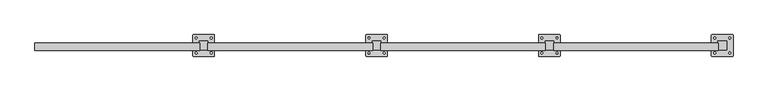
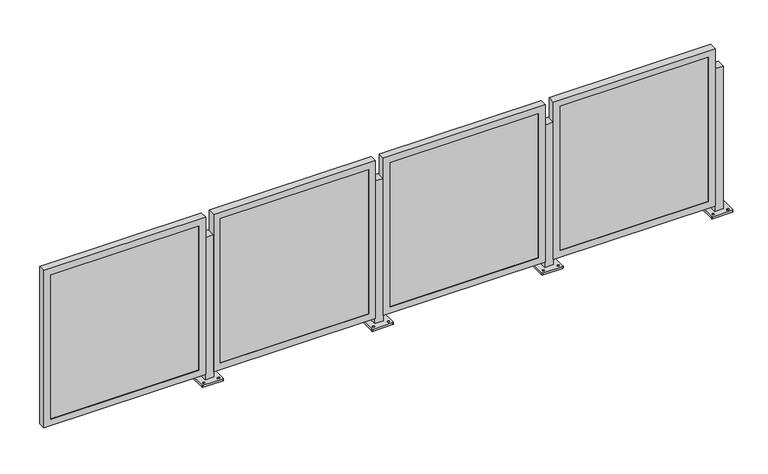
"""IFC4 building model written with IfcOpenShell, lengths in millimetres: railing geometry, Railing - Amico Architectural - Perforated Railing - Apex03."""

from ifc_helpers import new_model, si_unit, frame, origin, place, context, project, spatial, polyline, circle_curve, outline, extrude, faceted_brep, source, transform, mapped, element, save
from ifc_brep_helpers import plane_surface, cylinder_surface, revolved_surface, advanced_brep


def railing_685e31f2(model_context):
    return source(origin(), model_context, "Body", "SolidModel", [
        advanced_brep(
        [(-22933.5891671, -9669.5402105, 914.4), (-22933.5891671, -9720.3402105, 914.4), (-22882.7891671, -9720.3402105, 914.4), (-22882.7891671, -9669.5402105, 914.4), (-22971.6891672, -9755.2651694, 0.0), (-22971.6891672, -9634.6152515, 0.0), (-22968.5141391, -9631.4402233, 0.0), (-22847.8641951, -9631.4402233, 0.0), (-22844.6891669, -9634.6152515, 0.0), (-22844.6891669, -9755.2651694, 0.0), (-22847.8641951, -9758.4401976, 0.0), (-22968.5141391, -9758.4401976, 0.0), (-22952.6391546, -9744.9464651, 0.0), (-22952.6391546, -9733.8339526, 0.0), (-22952.6391655, -9656.0464607, 0.0), (-22952.6391655, -9644.9339791, 0.0), (-22863.7391536, -9744.9464636, 0.0), (-22863.7391536, -9733.8339529, 0.0), (-22863.7391646, -9656.0464592, 0.0), (-22863.7391646, -9644.9339794, 0.0), (-22933.5891671, -9669.5402105, 12.7), (-22933.5891671, -9720.3402105, 12.7), (-22882.7891671, -9720.3402105, 12.7), (-22882.7891671, -9669.5402105, 12.7), (-22971.6891672, -9755.2651694, 12.7), (-22968.5141391, -9758.4401976, 12.7), (-22847.8641951, -9758.4401976, 12.7), (-22844.6891669, -9755.2651694, 12.7), (-22844.6891669, -9634.6152515, 12.7), (-22847.8641951, -9631.4402233, 12.7), (-22968.5141391, -9631.4402233, 12.7), (-22971.6891672, -9634.6152515, 12.7), (-22952.6391546, -9744.9464651, 12.7), (-22952.6391546, -9733.8339526, 12.7), (-22952.6391655, -9656.0464607, 12.7), (-22952.6391655, -9644.9339791, 12.7), (-22863.7391536, -9744.9464636, 12.7), (-22863.7391536, -9733.8339529, 12.7), (-22863.7391646, -9656.0464592, 12.7), (-22863.7391646, -9644.9339794, 12.7)],
        [
            (0, 1),
            (1, 2),
            (2, 3),
            (3, 0),
            (4, 5),
            (5, 6, circle_curve(frame((-22968.5141391, -9634.6152515, 0.0), z_axis=(0.0, 0.0, -1.0), x_axis=(0.0, 1.0, 0.0)), 3.1750282)),
            (6, 7),
            (7, 8, circle_curve(frame((-22847.8641951, -9634.6152515, 0.0), z_axis=(0.0, 0.0, -1.0), x_axis=(0.0, 1.0, 0.0)), 3.1750282)),
            (8, 9),
            (9, 10, circle_curve(frame((-22847.8641951, -9755.2651694, 0.0), z_axis=(0.0, 0.0, -1.0), x_axis=(0.0, 1.0, 0.0)), 3.1750282)),
            (10, 11),
            (11, 4, circle_curve(frame((-22968.5141391, -9755.2651694, 0.0), z_axis=(0.0, 0.0, -1.0), x_axis=(0.0, 1.0, 0.0)), 3.1750282)),
            (12, 13, circle_curve(frame((-22952.6391546, -9739.3902089, 0.0), z_axis=(0.0, 0.0, 1.0), x_axis=(0.0, 1.0, 0.0)), 5.5562562)),
            (13, 12, circle_curve(frame((-22952.6391546, -9739.3902089, 0.0), z_axis=(0.0, 0.0, 1.0), x_axis=(0.0, 1.0, 0.0)), 5.5562562)),
            (14, 15, circle_curve(frame((-22952.6391655, -9650.4902199, 0.0), z_axis=(0.0, 0.0, 1.0), x_axis=(0.0, 1.0, 0.0)), 5.5562408)),
            (15, 14, circle_curve(frame((-22952.6391655, -9650.4902199, 0.0), z_axis=(0.0, 0.0, 1.0), x_axis=(0.0, 1.0, 0.0)), 5.5562408)),
            (16, 17, circle_curve(frame((-22863.7391536, -9739.3902082, 0.0), z_axis=(0.0, 0.0, 1.0), x_axis=(0.0, 1.0, 0.0)), 5.5562553)),
            (17, 16, circle_curve(frame((-22863.7391536, -9739.3902082, 0.0), z_axis=(0.0, 0.0, 1.0), x_axis=(0.0, 1.0, 0.0)), 5.5562553)),
            (18, 19, circle_curve(frame((-22863.7391646, -9650.4902193, 0.0), z_axis=(0.0, 0.0, 1.0), x_axis=(0.0, 1.0, 0.0)), 5.5562399)),
            (19, 18, circle_curve(frame((-22863.7391646, -9650.4902193, 0.0), z_axis=(0.0, 0.0, 1.0), x_axis=(0.0, 1.0, 0.0)), 5.5562399)),
            (0, 20),
            (20, 21),
            (21, 1),
            (21, 22),
            (22, 2),
            (22, 23),
            (23, 3),
            (23, 20),
            (24, 25, circle_curve(frame((-22968.5141391, -9755.2651694, 12.7), z_axis=(0.0, 0.0, 1.0), x_axis=(0.0, 1.0, 0.0)), 3.1750282)),
            (25, 26),
            (26, 27, circle_curve(frame((-22847.8641951, -9755.2651694, 12.7), z_axis=(0.0, 0.0, 1.0), x_axis=(0.0, 1.0, 0.0)), 3.1750282)),
            (27, 28),
            (28, 29, circle_curve(frame((-22847.8641951, -9634.6152515, 12.7), z_axis=(0.0, 0.0, 1.0), x_axis=(0.0, 1.0, 0.0)), 3.1750282)),
            (29, 30),
            (30, 31, circle_curve(frame((-22968.5141391, -9634.6152515, 12.7), z_axis=(0.0, 0.0, 1.0), x_axis=(0.0, 1.0, 0.0)), 3.1750282)),
            (31, 24),
            (32, 33, circle_curve(frame((-22952.6391546, -9739.3902089, 12.7), z_axis=(0.0, 0.0, -1.0), x_axis=(0.0, 1.0, 0.0)), 5.5562562)),
            (33, 32, circle_curve(frame((-22952.6391546, -9739.3902089, 12.7), z_axis=(0.0, 0.0, -1.0), x_axis=(0.0, 1.0, 0.0)), 5.5562562)),
            (34, 35, circle_curve(frame((-22952.6391655, -9650.4902199, 12.7), z_axis=(0.0, 0.0, -1.0), x_axis=(0.0, 1.0, 0.0)), 5.5562408)),
            (35, 34, circle_curve(frame((-22952.6391655, -9650.4902199, 12.7), z_axis=(0.0, 0.0, -1.0), x_axis=(0.0, 1.0, 0.0)), 5.5562408)),
            (36, 37, circle_curve(frame((-22863.7391536, -9739.3902082, 12.7), z_axis=(0.0, 0.0, -1.0), x_axis=(0.0, 1.0, 0.0)), 5.5562553)),
            (37, 36, circle_curve(frame((-22863.7391536, -9739.3902082, 12.7), z_axis=(0.0, 0.0, -1.0), x_axis=(0.0, 1.0, 0.0)), 5.5562553)),
            (38, 39, circle_curve(frame((-22863.7391646, -9650.4902193, 12.7), z_axis=(0.0, 0.0, -1.0), x_axis=(0.0, 1.0, 0.0)), 5.5562399)),
            (39, 38, circle_curve(frame((-22863.7391646, -9650.4902193, 12.7), z_axis=(0.0, 0.0, -1.0), x_axis=(0.0, 1.0, 0.0)), 5.5562399)),
            (24, 4),
            (11, 25),
            (10, 26),
            (9, 27),
            (8, 28),
            (7, 29),
            (6, 30),
            (5, 31),
            (32, 12),
            (13, 33),
            (34, 14),
            (15, 35),
            (36, 16),
            (17, 37),
            (38, 18),
            (19, 39),
        ],
        [
            plane_surface(frame((-22933.5891671, -9720.3402105, 914.4), z_axis=(0.0, 0.0, 1.0), x_axis=(0.0, -1.0, 0.0))),
            plane_surface(frame((-22933.5891671, -9720.3402105, 0.0), z_axis=(0.0, 0.0, -1.0), x_axis=(0.0, 1.0, 0.0))),
            plane_surface(frame((-22933.5891671, -9669.5402105, 914.4), z_axis=(-1.0, 0.0, 0.0), x_axis=(0.0, 0.0, -1.0))),
            plane_surface(frame((-22933.5891671, -9720.3402105, 914.4), z_axis=(0.0, -1.0, 0.0), x_axis=(0.0, 0.0, -1.0))),
            plane_surface(frame((-22882.7891671, -9720.3402105, 914.4), z_axis=(1.0, 0.0, 0.0), x_axis=(0.0, 0.0, -1.0))),
            plane_surface(frame((-22882.7891671, -9669.5402105, 914.4), z_axis=(0.0, 1.0, 0.0), x_axis=(0.0, 0.0, -1.0))),
            plane_surface(frame((-22968.5141391, -9752.0901413, 12.7), z_axis=(0.0, 0.0, 1.0), x_axis=(-1.0, 0.0, 0.0))),
            cylinder_surface(frame((-22968.5141391, -9755.2651694, 0.0), z_axis=(0.0, 0.0, 1.0), x_axis=(0.0, 1.0, 0.0)), 3.1750282),
            plane_surface(frame((-22968.5141391, -9758.4401976, 12.7), z_axis=(1.1945386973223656e-12, -1.0, 0.0), x_axis=(0.0, 0.0, -1.0))),
            cylinder_surface(frame((-22847.8641951, -9755.2651694, 0.0), z_axis=(0.0, 0.0, 1.0), x_axis=(0.0, 1.0, 0.0)), 3.1750282),
            plane_surface(frame((-22844.6891669, -9755.2651694, 12.7), z_axis=(1.0, 0.0, 0.0), x_axis=(0.0, 0.0, -1.0))),
            cylinder_surface(frame((-22847.8641951, -9634.6152515, 0.0), z_axis=(0.0, 0.0, 1.0), x_axis=(0.0, 1.0, 0.0)), 3.1750282),
            plane_surface(frame((-22847.8641951, -9631.4402233, 12.7), z_axis=(-1.1946088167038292e-12, 1.0, 0.0), x_axis=(0.0, 0.0, -1.0))),
            cylinder_surface(frame((-22968.5141391, -9634.6152515, 0.0), z_axis=(0.0, 0.0, 1.0), x_axis=(0.0, 1.0, 0.0)), 3.1750282),
            plane_surface(frame((-22971.6891672, -9634.6152515, 12.7), z_axis=(-1.0, 0.0, 0.0), x_axis=(0.0, 0.0, -1.0))),
            revolved_surface(polyline([(-22952.6391546, -9733.8339527, 0.0), (-22952.6391546, -9733.8339527, 12.7)]), (-22952.6391546, -9739.3902089, 0.0), (0.0, 0.0, -1.0)),
            revolved_surface(polyline([(-22952.6391655, -9644.9339791, 0.0), (-22952.6391655, -9644.9339791, 12.7)]), (-22952.6391655, -9650.4902199, 0.0), (0.0, 0.0, -1.0)),
            revolved_surface(polyline([(-22863.7391536, -9733.8339529, 0.0), (-22863.7391536, -9733.8339529, 12.7)]), (-22863.7391536, -9739.3902082, 0.0), (0.0, 0.0, -1.0)),
            revolved_surface(polyline([(-22863.7391646, -9644.9339794, 0.0), (-22863.7391646, -9644.9339794, 12.7)]), (-22863.7391646, -9650.4902193, 0.0), (0.0, 0.0, -1.0)),
        ],
        [
            (0, [[1, 2, 3, 4]]),
            (1, [[5, 6, 7, 8, 9, 10, 11, 12], [13, 14], [15, 16], [17, 18], [19, 20]]),
            (2, [[-1, 21, 22, 23]]),
            (3, [[-2, -23, 24, 25]]),
            (4, [[-3, -25, 26, 27]]),
            (5, [[-4, -27, 28, -21]]),
            (6, [[29, 30, 31, 32, 33, 34, 35, 36], [-22, -28, -26, -24], [37, 38], [39, 40], [41, 42], [43, 44]]),
            (7, [[-29, 45, -12, 46]]),
            (8, [[-30, -46, -11, 47]]),
            (9, [[-31, -47, -10, 48]]),
            (10, [[-32, -48, -9, 49]]),
            (11, [[-33, -49, -8, 50]]),
            (12, [[-34, -50, -7, 51]]),
            (13, [[-35, -51, -6, 52]]),
            (14, [[-36, -52, -5, -45]]),
            (15, [[-37, 53, -14, 54]]),
            (15, [[-38, -54, -13, -53]]),
            (16, [[-39, 55, -16, 56]]),
            (16, [[-40, -56, -15, -55]]),
            (17, [[-41, 57, -18, 58]]),
            (17, [[-42, -58, -17, -57]]),
            (18, [[-43, 59, -20, 60]]),
            (18, [[-44, -60, -19, -59]]),
        ],
    ),
        faceted_brep([(-23899.9936205, -9723.0834105, 47.625), (-22931.6186205, -9723.0834105, 47.625), (-22931.6186205, -9723.0834105, 1044.575), (-23899.9936205, -9723.0834105, 1044.575), (-23858.7186205, -9723.0834105, 1003.3), (-22972.8936205, -9723.0834105, 1003.3), (-22972.8936205, -9723.0834105, 88.9), (-23858.7186205, -9723.0834105, 88.9), (-23858.7186205, -9720.3402105, 1003.3), (-23858.7186205, -9720.3402105, 88.9), (-23899.9936205, -9679.2101139, 1044.575), (-23899.9936205, -9679.2101139, 47.625), (-23896.8186205, -9679.2101139, 1041.4), (-23896.8186205, -9720.3402105, 1041.4), (-23896.8186205, -9720.3402105, 50.8), (-23896.8186205, -9679.2101139, 50.8), (-22972.8936205, -9720.3402105, 88.9), (-22931.6186205, -9679.2101139, 47.625), (-22934.7936205, -9720.3402105, 50.8), (-22934.7936205, -9679.2101139, 50.8), (-22972.8936205, -9720.3402105, 1003.3), (-22931.6186205, -9679.2101139, 1044.575), (-22934.7936205, -9720.3402105, 1041.4), (-22934.7936205, -9679.2101139, 1041.4)], [[[0, 1, 2, 3], [4, 5, 6, 7]], [[8, 4, 7, 9]], [[3, 10, 11, 0]], [[12, 13, 14, 15]], [[9, 7, 6, 16]], [[0, 11, 17, 1]], [[15, 14, 18, 19]], [[16, 6, 5, 20]], [[1, 17, 21, 2]], [[19, 18, 22, 23]], [[20, 5, 4, 8]], [[10, 21, 17, 11], [15, 19, 23, 12]], [[2, 21, 10, 3]], [[13, 22, 18, 14], [9, 16, 20, 8]], [[23, 22, 13, 12]]]),
        extrude(outline(polyline([(-23896.8186205, -9710.8152105), (-22934.7936205, -9710.8152105), (-22934.7936205, -9720.3402105), (-23896.8186205, -9720.3402105), (-23896.8186205, -9710.8152105)])), frame((0.0, 0.0, 50.8), z_axis=(0.0, 0.0, 1.0), x_axis=(1.0, 0.0, 0.0)), (0.0, 0.0, 1.0), 990.6),
        advanced_brep(
        [(-23949.5891671, -9669.5402105, 914.4), (-23949.5891671, -9720.3402105, 914.4), (-23898.7891671, -9720.3402105, 914.4), (-23898.7891671, -9669.5402105, 914.4), (-23987.6891672, -9755.2651694, 0.0), (-23987.6891672, -9634.6152515, 0.0), (-23984.5141391, -9631.4402233, 0.0), (-23863.8641951, -9631.4402233, 0.0), (-23860.6891669, -9634.6152515, 0.0), (-23860.6891669, -9755.2651694, 0.0), (-23863.8641951, -9758.4401976, 0.0), (-23984.5141391, -9758.4401976, 0.0), (-23968.6391546, -9744.9464651, 0.0), (-23968.6391546, -9733.8339526, 0.0), (-23968.6391655, -9656.0464607, 0.0), (-23968.6391655, -9644.9339791, 0.0), (-23879.7391536, -9744.9464636, 0.0), (-23879.7391536, -9733.8339529, 0.0), (-23879.7391646, -9656.0464592, 0.0), (-23879.7391646, -9644.9339794, 0.0), (-23949.5891671, -9669.5402105, 12.7), (-23949.5891671, -9720.3402105, 12.7), (-23898.7891671, -9720.3402105, 12.7), (-23898.7891671, -9669.5402105, 12.7), (-23987.6891672, -9755.2651694, 12.7), (-23984.5141391, -9758.4401976, 12.7), (-23863.8641951, -9758.4401976, 12.7), (-23860.6891669, -9755.2651694, 12.7), (-23860.6891669, -9634.6152515, 12.7), (-23863.8641951, -9631.4402233, 12.7), (-23984.5141391, -9631.4402233, 12.7), (-23987.6891672, -9634.6152515, 12.7), (-23968.6391546, -9744.9464651, 12.7), (-23968.6391546, -9733.8339526, 12.7), (-23968.6391655, -9656.0464607, 12.7), (-23968.6391655, -9644.9339791, 12.7), (-23879.7391536, -9744.9464636, 12.7), (-23879.7391536, -9733.8339529, 12.7), (-23879.7391646, -9656.0464592, 12.7), (-23879.7391646, -9644.9339794, 12.7)],
        [
            (0, 1),
            (1, 2),
            (2, 3),
            (3, 0),
            (4, 5),
            (5, 6, circle_curve(frame((-23984.5141391, -9634.6152515, 0.0), z_axis=(0.0, 0.0, -1.0), x_axis=(0.0, 1.0, 0.0)), 3.1750282)),
            (6, 7),
            (7, 8, circle_curve(frame((-23863.8641951, -9634.6152515, 0.0), z_axis=(0.0, 0.0, -1.0), x_axis=(0.0, 1.0, 0.0)), 3.1750282)),
            (8, 9),
            (9, 10, circle_curve(frame((-23863.8641951, -9755.2651694, 0.0), z_axis=(0.0, 0.0, -1.0), x_axis=(0.0, 1.0, 0.0)), 3.1750282)),
            (10, 11),
            (11, 4, circle_curve(frame((-23984.5141391, -9755.2651694, 0.0), z_axis=(0.0, 0.0, -1.0), x_axis=(0.0, 1.0, 0.0)), 3.1750282)),
            (12, 13, circle_curve(frame((-23968.6391546, -9739.3902089, 0.0), z_axis=(0.0, 0.0, 1.0), x_axis=(0.0, 1.0, 0.0)), 5.5562562)),
            (13, 12, circle_curve(frame((-23968.6391546, -9739.3902089, 0.0), z_axis=(0.0, 0.0, 1.0), x_axis=(0.0, 1.0, 0.0)), 5.5562562)),
            (14, 15, circle_curve(frame((-23968.6391655, -9650.4902199, 0.0), z_axis=(0.0, 0.0, 1.0), x_axis=(0.0, 1.0, 0.0)), 5.5562408)),
            (15, 14, circle_curve(frame((-23968.6391655, -9650.4902199, 0.0), z_axis=(0.0, 0.0, 1.0), x_axis=(0.0, 1.0, 0.0)), 5.5562408)),
            (16, 17, circle_curve(frame((-23879.7391536, -9739.3902082, 0.0), z_axis=(0.0, 0.0, 1.0), x_axis=(0.0, 1.0, 0.0)), 5.5562553)),
            (17, 16, circle_curve(frame((-23879.7391536, -9739.3902082, 0.0), z_axis=(0.0, 0.0, 1.0), x_axis=(0.0, 1.0, 0.0)), 5.5562553)),
            (18, 19, circle_curve(frame((-23879.7391646, -9650.4902193, 0.0), z_axis=(0.0, 0.0, 1.0), x_axis=(0.0, 1.0, 0.0)), 5.5562399)),
            (19, 18, circle_curve(frame((-23879.7391646, -9650.4902193, 0.0), z_axis=(0.0, 0.0, 1.0), x_axis=(0.0, 1.0, 0.0)), 5.5562399)),
            (0, 20),
            (20, 21),
            (21, 1),
            (21, 22),
            (22, 2),
            (22, 23),
            (23, 3),
            (23, 20),
            (24, 25, circle_curve(frame((-23984.5141391, -9755.2651694, 12.7), z_axis=(0.0, 0.0, 1.0), x_axis=(0.0, 1.0, 0.0)), 3.1750282)),
            (25, 26),
            (26, 27, circle_curve(frame((-23863.8641951, -9755.2651694, 12.7), z_axis=(0.0, 0.0, 1.0), x_axis=(0.0, 1.0, 0.0)), 3.1750282)),
            (27, 28),
            (28, 29, circle_curve(frame((-23863.8641951, -9634.6152515, 12.7), z_axis=(0.0, 0.0, 1.0), x_axis=(0.0, 1.0, 0.0)), 3.1750282)),
            (29, 30),
            (30, 31, circle_curve(frame((-23984.5141391, -9634.6152515, 12.7), z_axis=(0.0, 0.0, 1.0), x_axis=(0.0, 1.0, 0.0)), 3.1750282)),
            (31, 24),
            (32, 33, circle_curve(frame((-23968.6391546, -9739.3902089, 12.7), z_axis=(0.0, 0.0, -1.0), x_axis=(0.0, 1.0, 0.0)), 5.5562562)),
            (33, 32, circle_curve(frame((-23968.6391546, -9739.3902089, 12.7), z_axis=(0.0, 0.0, -1.0), x_axis=(0.0, 1.0, 0.0)), 5.5562562)),
            (34, 35, circle_curve(frame((-23968.6391655, -9650.4902199, 12.7), z_axis=(0.0, 0.0, -1.0), x_axis=(0.0, 1.0, 0.0)), 5.5562408)),
            (35, 34, circle_curve(frame((-23968.6391655, -9650.4902199, 12.7), z_axis=(0.0, 0.0, -1.0), x_axis=(0.0, 1.0, 0.0)), 5.5562408)),
            (36, 37, circle_curve(frame((-23879.7391536, -9739.3902082, 12.7), z_axis=(0.0, 0.0, -1.0), x_axis=(0.0, 1.0, 0.0)), 5.5562553)),
            (37, 36, circle_curve(frame((-23879.7391536, -9739.3902082, 12.7), z_axis=(0.0, 0.0, -1.0), x_axis=(0.0, 1.0, 0.0)), 5.5562553)),
            (38, 39, circle_curve(frame((-23879.7391646, -9650.4902193, 12.7), z_axis=(0.0, 0.0, -1.0), x_axis=(0.0, 1.0, 0.0)), 5.5562399)),
            (39, 38, circle_curve(frame((-23879.7391646, -9650.4902193, 12.7), z_axis=(0.0, 0.0, -1.0), x_axis=(0.0, 1.0, 0.0)), 5.5562399)),
            (24, 4),
            (11, 25),
            (10, 26),
            (9, 27),
            (8, 28),
            (7, 29),
            (6, 30),
            (5, 31),
            (32, 12),
            (13, 33),
            (34, 14),
            (15, 35),
            (36, 16),
            (17, 37),
            (38, 18),
            (19, 39),
        ],
        [
            plane_surface(frame((-23949.5891671, -9720.3402105, 914.4), z_axis=(0.0, 0.0, 1.0), x_axis=(0.0, -1.0, 0.0))),
            plane_surface(frame((-23949.5891671, -9720.3402105, 0.0), z_axis=(0.0, 0.0, -1.0), x_axis=(0.0, 1.0, 0.0))),
            plane_surface(frame((-23949.5891671, -9669.5402105, 914.4), z_axis=(-1.0, 0.0, 0.0), x_axis=(0.0, 0.0, -1.0))),
            plane_surface(frame((-23949.5891671, -9720.3402105, 914.4), z_axis=(0.0, -1.0, 0.0), x_axis=(0.0, 0.0, -1.0))),
            plane_surface(frame((-23898.7891671, -9720.3402105, 914.4), z_axis=(1.0, 0.0, 0.0), x_axis=(0.0, 0.0, -1.0))),
            plane_surface(frame((-23898.7891671, -9669.5402105, 914.4), z_axis=(0.0, 1.0, 0.0), x_axis=(0.0, 0.0, -1.0))),
            plane_surface(frame((-23984.5141391, -9752.0901413, 12.7), z_axis=(0.0, 0.0, 1.0), x_axis=(-1.0, 0.0, 0.0))),
            cylinder_surface(frame((-23984.5141391, -9755.2651694, 0.0), z_axis=(0.0, 0.0, 1.0), x_axis=(0.0, 1.0, 0.0)), 3.1750282),
            plane_surface(frame((-23984.5141391, -9758.4401976, 12.7), z_axis=(1.1945386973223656e-12, -1.0, 0.0), x_axis=(0.0, 0.0, -1.0))),
            cylinder_surface(frame((-23863.8641951, -9755.2651694, 0.0), z_axis=(0.0, 0.0, 1.0), x_axis=(0.0, 1.0, 0.0)), 3.1750282),
            plane_surface(frame((-23860.6891669, -9755.2651694, 12.7), z_axis=(1.0, 0.0, 0.0), x_axis=(0.0, 0.0, -1.0))),
            cylinder_surface(frame((-23863.8641951, -9634.6152515, 0.0), z_axis=(0.0, 0.0, 1.0), x_axis=(0.0, 1.0, 0.0)), 3.1750282),
            plane_surface(frame((-23863.8641951, -9631.4402233, 12.7), z_axis=(-1.1946088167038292e-12, 1.0, 0.0), x_axis=(0.0, 0.0, -1.0))),
            cylinder_surface(frame((-23984.5141391, -9634.6152515, 0.0), z_axis=(0.0, 0.0, 1.0), x_axis=(0.0, 1.0, 0.0)), 3.1750282),
            plane_surface(frame((-23987.6891672, -9634.6152515, 12.7), z_axis=(-1.0, 0.0, 0.0), x_axis=(0.0, 0.0, -1.0))),
            revolved_surface(polyline([(-23968.6391546, -9733.8339527, 0.0), (-23968.6391546, -9733.8339527, 12.7)]), (-23968.6391546, -9739.3902089, 0.0), (0.0, 0.0, -1.0)),
            revolved_surface(polyline([(-23968.6391655, -9644.9339791, 0.0), (-23968.6391655, -9644.9339791, 12.7)]), (-23968.6391655, -9650.4902199, 0.0), (0.0, 0.0, -1.0)),
            revolved_surface(polyline([(-23879.7391536, -9733.8339529, 0.0), (-23879.7391536, -9733.8339529, 12.7)]), (-23879.7391536, -9739.3902082, 0.0), (0.0, 0.0, -1.0)),
            revolved_surface(polyline([(-23879.7391646, -9644.9339794, 0.0), (-23879.7391646, -9644.9339794, 12.7)]), (-23879.7391646, -9650.4902193, 0.0), (0.0, 0.0, -1.0)),
        ],
        [
            (0, [[1, 2, 3, 4]]),
            (1, [[5, 6, 7, 8, 9, 10, 11, 12], [13, 14], [15, 16], [17, 18], [19, 20]]),
            (2, [[-1, 21, 22, 23]]),
            (3, [[-2, -23, 24, 25]]),
            (4, [[-3, -25, 26, 27]]),
            (5, [[-4, -27, 28, -21]]),
            (6, [[29, 30, 31, 32, 33, 34, 35, 36], [-22, -28, -26, -24], [37, 38], [39, 40], [41, 42], [43, 44]]),
            (7, [[-29, 45, -12, 46]]),
            (8, [[-30, -46, -11, 47]]),
            (9, [[-31, -47, -10, 48]]),
            (10, [[-32, -48, -9, 49]]),
            (11, [[-33, -49, -8, 50]]),
            (12, [[-34, -50, -7, 51]]),
            (13, [[-35, -51, -6, 52]]),
            (14, [[-36, -52, -5, -45]]),
            (15, [[-37, 53, -14, 54]]),
            (15, [[-38, -54, -13, -53]]),
            (16, [[-39, 55, -16, 56]]),
            (16, [[-40, -56, -15, -55]]),
            (17, [[-41, 57, -18, 58]]),
            (17, [[-42, -58, -17, -57]]),
            (18, [[-43, 59, -20, 60]]),
            (18, [[-44, -60, -19, -59]]),
        ],
    ),
        faceted_brep([(-24915.9936205, -9723.0834105, 47.625), (-23947.6186205, -9723.0834105, 47.625), (-23947.6186205, -9723.0834105, 1044.575), (-24915.9936205, -9723.0834105, 1044.575), (-24874.7186205, -9723.0834105, 1003.3), (-23988.8936205, -9723.0834105, 1003.3), (-23988.8936205, -9723.0834105, 88.9), (-24874.7186205, -9723.0834105, 88.9), (-24874.7186205, -9720.3402105, 1003.3), (-24874.7186205, -9720.3402105, 88.9), (-24915.9936205, -9679.2101139, 1044.575), (-24915.9936205, -9679.2101139, 47.625), (-24912.8186205, -9679.2101139, 1041.4), (-24912.8186205, -9720.3402105, 1041.4), (-24912.8186205, -9720.3402105, 50.8), (-24912.8186205, -9679.2101139, 50.8), (-23988.8936205, -9720.3402105, 88.9), (-23947.6186205, -9679.2101139, 47.625), (-23950.7936205, -9720.3402105, 50.8), (-23950.7936205, -9679.2101139, 50.8), (-23988.8936205, -9720.3402105, 1003.3), (-23947.6186205, -9679.2101139, 1044.575), (-23950.7936205, -9720.3402105, 1041.4), (-23950.7936205, -9679.2101139, 1041.4)], [[[0, 1, 2, 3], [4, 5, 6, 7]], [[8, 4, 7, 9]], [[3, 10, 11, 0]], [[12, 13, 14, 15]], [[9, 7, 6, 16]], [[0, 11, 17, 1]], [[15, 14, 18, 19]], [[16, 6, 5, 20]], [[1, 17, 21, 2]], [[19, 18, 22, 23]], [[20, 5, 4, 8]], [[10, 21, 17, 11], [15, 19, 23, 12]], [[2, 21, 10, 3]], [[13, 22, 18, 14], [9, 16, 20, 8]], [[23, 22, 13, 12]]]),
        extrude(outline(polyline([(-24912.8186205, -9710.8152105), (-23950.7936205, -9710.8152105), (-23950.7936205, -9720.3402105), (-24912.8186205, -9720.3402105), (-24912.8186205, -9710.8152105)])), frame((0.0, 0.0, 50.8), z_axis=(0.0, 0.0, 1.0), x_axis=(1.0, 0.0, 0.0)), (0.0, 0.0, 1.0), 990.6),
        advanced_brep(
        [(-24965.5891671, -9669.5402105, 914.4), (-24965.5891671, -9720.3402105, 914.4), (-24914.7891671, -9720.3402105, 914.4), (-24914.7891671, -9669.5402105, 914.4), (-25003.6891672, -9755.2651694, 0.0), (-25003.6891672, -9634.6152515, 0.0), (-25000.5141391, -9631.4402233, 0.0), (-24879.8641951, -9631.4402233, 0.0), (-24876.6891669, -9634.6152515, 0.0), (-24876.6891669, -9755.2651694, 0.0), (-24879.8641951, -9758.4401976, 0.0), (-25000.5141391, -9758.4401976, 0.0), (-24984.6391546, -9744.9464651, 0.0), (-24984.6391546, -9733.8339526, 0.0), (-24984.6391655, -9656.0464607, 0.0), (-24984.6391655, -9644.9339791, 0.0), (-24895.7391536, -9744.9464636, 0.0), (-24895.7391536, -9733.8339529, 0.0), (-24895.7391646, -9656.0464592, 0.0), (-24895.7391646, -9644.9339794, 0.0), (-24965.5891671, -9669.5402105, 12.7), (-24965.5891671, -9720.3402105, 12.7), (-24914.7891671, -9720.3402105, 12.7), (-24914.7891671, -9669.5402105, 12.7), (-25003.6891672, -9755.2651694, 12.7), (-25000.5141391, -9758.4401976, 12.7), (-24879.8641951, -9758.4401976, 12.7), (-24876.6891669, -9755.2651694, 12.7), (-24876.6891669, -9634.6152515, 12.7), (-24879.8641951, -9631.4402233, 12.7), (-25000.5141391, -9631.4402233, 12.7), (-25003.6891672, -9634.6152515, 12.7), (-24984.6391546, -9744.9464651, 12.7), (-24984.6391546, -9733.8339526, 12.7), (-24984.6391655, -9656.0464607, 12.7), (-24984.6391655, -9644.9339791, 12.7), (-24895.7391536, -9744.9464636, 12.7), (-24895.7391536, -9733.8339529, 12.7), (-24895.7391646, -9656.0464592, 12.7), (-24895.7391646, -9644.9339794, 12.7)],
        [
            (0, 1),
            (1, 2),
            (2, 3),
            (3, 0),
            (4, 5),
            (5, 6, circle_curve(frame((-25000.5141391, -9634.6152515, 0.0), z_axis=(0.0, 0.0, -1.0), x_axis=(0.0, 1.0, 0.0)), 3.1750282)),
            (6, 7),
            (7, 8, circle_curve(frame((-24879.8641951, -9634.6152515, 0.0), z_axis=(0.0, 0.0, -1.0), x_axis=(0.0, 1.0, 0.0)), 3.1750282)),
            (8, 9),
            (9, 10, circle_curve(frame((-24879.8641951, -9755.2651694, 0.0), z_axis=(0.0, 0.0, -1.0), x_axis=(0.0, 1.0, 0.0)), 3.1750282)),
            (10, 11),
            (11, 4, circle_curve(frame((-25000.5141391, -9755.2651694, 0.0), z_axis=(0.0, 0.0, -1.0), x_axis=(0.0, 1.0, 0.0)), 3.1750282)),
            (12, 13, circle_curve(frame((-24984.6391546, -9739.3902089, 0.0), z_axis=(0.0, 0.0, 1.0), x_axis=(0.0, 1.0, 0.0)), 5.5562562)),
            (13, 12, circle_curve(frame((-24984.6391546, -9739.3902089, 0.0), z_axis=(0.0, 0.0, 1.0), x_axis=(0.0, 1.0, 0.0)), 5.5562562)),
            (14, 15, circle_curve(frame((-24984.6391655, -9650.4902199, 0.0), z_axis=(0.0, 0.0, 1.0), x_axis=(0.0, 1.0, 0.0)), 5.5562408)),
            (15, 14, circle_curve(frame((-24984.6391655, -9650.4902199, 0.0), z_axis=(0.0, 0.0, 1.0), x_axis=(0.0, 1.0, 0.0)), 5.5562408)),
            (16, 17, circle_curve(frame((-24895.7391536, -9739.3902082, 0.0), z_axis=(0.0, 0.0, 1.0), x_axis=(0.0, 1.0, 0.0)), 5.5562553)),
            (17, 16, circle_curve(frame((-24895.7391536, -9739.3902082, 0.0), z_axis=(0.0, 0.0, 1.0), x_axis=(0.0, 1.0, 0.0)), 5.5562553)),
            (18, 19, circle_curve(frame((-24895.7391646, -9650.4902193, 0.0), z_axis=(0.0, 0.0, 1.0), x_axis=(0.0, 1.0, 0.0)), 5.5562399)),
            (19, 18, circle_curve(frame((-24895.7391646, -9650.4902193, 0.0), z_axis=(0.0, 0.0, 1.0), x_axis=(0.0, 1.0, 0.0)), 5.5562399)),
            (0, 20),
            (20, 21),
            (21, 1),
            (21, 22),
            (22, 2),
            (22, 23),
            (23, 3),
            (23, 20),
            (24, 25, circle_curve(frame((-25000.5141391, -9755.2651694, 12.7), z_axis=(0.0, 0.0, 1.0), x_axis=(0.0, 1.0, 0.0)), 3.1750282)),
            (25, 26),
            (26, 27, circle_curve(frame((-24879.8641951, -9755.2651694, 12.7), z_axis=(0.0, 0.0, 1.0), x_axis=(0.0, 1.0, 0.0)), 3.1750282)),
            (27, 28),
            (28, 29, circle_curve(frame((-24879.8641951, -9634.6152515, 12.7), z_axis=(0.0, 0.0, 1.0), x_axis=(0.0, 1.0, 0.0)), 3.1750282)),
            (29, 30),
            (30, 31, circle_curve(frame((-25000.5141391, -9634.6152515, 12.7), z_axis=(0.0, 0.0, 1.0), x_axis=(0.0, 1.0, 0.0)), 3.1750282)),
            (31, 24),
            (32, 33, circle_curve(frame((-24984.6391546, -9739.3902089, 12.7), z_axis=(0.0, 0.0, -1.0), x_axis=(0.0, 1.0, 0.0)), 5.5562562)),
            (33, 32, circle_curve(frame((-24984.6391546, -9739.3902089, 12.7), z_axis=(0.0, 0.0, -1.0), x_axis=(0.0, 1.0, 0.0)), 5.5562562)),
            (34, 35, circle_curve(frame((-24984.6391655, -9650.4902199, 12.7), z_axis=(0.0, 0.0, -1.0), x_axis=(0.0, 1.0, 0.0)), 5.5562408)),
            (35, 34, circle_curve(frame((-24984.6391655, -9650.4902199, 12.7), z_axis=(0.0, 0.0, -1.0), x_axis=(0.0, 1.0, 0.0)), 5.5562408)),
            (36, 37, circle_curve(frame((-24895.7391536, -9739.3902082, 12.7), z_axis=(0.0, 0.0, -1.0), x_axis=(0.0, 1.0, 0.0)), 5.5562553)),
            (37, 36, circle_curve(frame((-24895.7391536, -9739.3902082, 12.7), z_axis=(0.0, 0.0, -1.0), x_axis=(0.0, 1.0, 0.0)), 5.5562553)),
            (38, 39, circle_curve(frame((-24895.7391646, -9650.4902193, 12.7), z_axis=(0.0, 0.0, -1.0), x_axis=(0.0, 1.0, 0.0)), 5.5562399)),
            (39, 38, circle_curve(frame((-24895.7391646, -9650.4902193, 12.7), z_axis=(0.0, 0.0, -1.0), x_axis=(0.0, 1.0, 0.0)), 5.5562399)),
            (24, 4),
            (11, 25),
            (10, 26),
            (9, 27),
            (8, 28),
            (7, 29),
            (6, 30),
            (5, 31),
            (32, 12),
            (13, 33),
            (34, 14),
            (15, 35),
            (36, 16),
            (17, 37),
            (38, 18),
            (19, 39),
        ],
        [
            plane_surface(frame((-24965.5891671, -9720.3402105, 914.4), z_axis=(0.0, 0.0, 1.0), x_axis=(0.0, -1.0, 0.0))),
            plane_surface(frame((-24965.5891671, -9720.3402105, 0.0), z_axis=(0.0, 0.0, -1.0), x_axis=(0.0, 1.0, 0.0))),
            plane_surface(frame((-24965.5891671, -9669.5402105, 914.4), z_axis=(-1.0, 0.0, 0.0), x_axis=(0.0, 0.0, -1.0))),
            plane_surface(frame((-24965.5891671, -9720.3402105, 914.4), z_axis=(0.0, -1.0, 0.0), x_axis=(0.0, 0.0, -1.0))),
            plane_surface(frame((-24914.7891671, -9720.3402105, 914.4), z_axis=(1.0, 0.0, 0.0), x_axis=(0.0, 0.0, -1.0))),
            plane_surface(frame((-24914.7891671, -9669.5402105, 914.4), z_axis=(0.0, 1.0, 0.0), x_axis=(0.0, 0.0, -1.0))),
            plane_surface(frame((-25000.5141391, -9752.0901413, 12.7), z_axis=(0.0, 0.0, 1.0), x_axis=(-1.0, 0.0, 0.0))),
            cylinder_surface(frame((-25000.5141391, -9755.2651694, 0.0), z_axis=(0.0, 0.0, 1.0), x_axis=(0.0, 1.0, 0.0)), 3.1750282),
            plane_surface(frame((-25000.5141391, -9758.4401976, 12.7), z_axis=(1.1945386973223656e-12, -1.0, 0.0), x_axis=(0.0, 0.0, -1.0))),
            cylinder_surface(frame((-24879.8641951, -9755.2651694, 0.0), z_axis=(0.0, 0.0, 1.0), x_axis=(0.0, 1.0, 0.0)), 3.1750282),
            plane_surface(frame((-24876.6891669, -9755.2651694, 12.7), z_axis=(1.0, 0.0, 0.0), x_axis=(0.0, 0.0, -1.0))),
            cylinder_surface(frame((-24879.8641951, -9634.6152515, 0.0), z_axis=(0.0, 0.0, 1.0), x_axis=(0.0, 1.0, 0.0)), 3.1750282),
            plane_surface(frame((-24879.8641951, -9631.4402233, 12.7), z_axis=(-1.1946088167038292e-12, 1.0, 0.0), x_axis=(0.0, 0.0, -1.0))),
            cylinder_surface(frame((-25000.5141391, -9634.6152515, 0.0), z_axis=(0.0, 0.0, 1.0), x_axis=(0.0, 1.0, 0.0)), 3.1750282),
            plane_surface(frame((-25003.6891672, -9634.6152515, 12.7), z_axis=(-1.0, 0.0, 0.0), x_axis=(0.0, 0.0, -1.0))),
            revolved_surface(polyline([(-24984.6391546, -9733.8339527, 0.0), (-24984.6391546, -9733.8339527, 12.7)]), (-24984.6391546, -9739.3902089, 0.0), (0.0, 0.0, -1.0)),
            revolved_surface(polyline([(-24984.6391655, -9644.9339791, 0.0), (-24984.6391655, -9644.9339791, 12.7)]), (-24984.6391655, -9650.4902199, 0.0), (0.0, 0.0, -1.0)),
            revolved_surface(polyline([(-24895.7391536, -9733.8339529, 0.0), (-24895.7391536, -9733.8339529, 12.7)]), (-24895.7391536, -9739.3902082, 0.0), (0.0, 0.0, -1.0)),
            revolved_surface(polyline([(-24895.7391646, -9644.9339794, 0.0), (-24895.7391646, -9644.9339794, 12.7)]), (-24895.7391646, -9650.4902193, 0.0), (0.0, 0.0, -1.0)),
        ],
        [
            (0, [[1, 2, 3, 4]]),
            (1, [[5, 6, 7, 8, 9, 10, 11, 12], [13, 14], [15, 16], [17, 18], [19, 20]]),
            (2, [[-1, 21, 22, 23]]),
            (3, [[-2, -23, 24, 25]]),
            (4, [[-3, -25, 26, 27]]),
            (5, [[-4, -27, 28, -21]]),
            (6, [[29, 30, 31, 32, 33, 34, 35, 36], [-22, -28, -26, -24], [37, 38], [39, 40], [41, 42], [43, 44]]),
            (7, [[-29, 45, -12, 46]]),
            (8, [[-30, -46, -11, 47]]),
            (9, [[-31, -47, -10, 48]]),
            (10, [[-32, -48, -9, 49]]),
            (11, [[-33, -49, -8, 50]]),
            (12, [[-34, -50, -7, 51]]),
            (13, [[-35, -51, -6, 52]]),
            (14, [[-36, -52, -5, -45]]),
            (15, [[-37, 53, -14, 54]]),
            (15, [[-38, -54, -13, -53]]),
            (16, [[-39, 55, -16, 56]]),
            (16, [[-40, -56, -15, -55]]),
            (17, [[-41, 57, -18, 58]]),
            (17, [[-42, -58, -17, -57]]),
            (18, [[-43, 59, -20, 60]]),
            (18, [[-44, -60, -19, -59]]),
        ],
    ),
        faceted_brep([(-25931.9936205, -9723.0834105, 47.625), (-24963.6186205, -9723.0834105, 47.625), (-24963.6186205, -9723.0834105, 1044.575), (-25931.9936205, -9723.0834105, 1044.575), (-25890.7186205, -9723.0834105, 1003.3), (-25004.8936205, -9723.0834105, 1003.3), (-25004.8936205, -9723.0834105, 88.9), (-25890.7186205, -9723.0834105, 88.9), (-25890.7186205, -9720.3402105, 1003.3), (-25890.7186205, -9720.3402105, 88.9), (-25931.9936205, -9679.2101139, 1044.575), (-25931.9936205, -9679.2101139, 47.625), (-25928.8186205, -9679.2101139, 1041.4), (-25928.8186205, -9720.3402105, 1041.4), (-25928.8186205, -9720.3402105, 50.8), (-25928.8186205, -9679.2101139, 50.8), (-25004.8936205, -9720.3402105, 88.9), (-24963.6186205, -9679.2101139, 47.625), (-24966.7936205, -9720.3402105, 50.8), (-24966.7936205, -9679.2101139, 50.8), (-25004.8936205, -9720.3402105, 1003.3), (-24963.6186205, -9679.2101139, 1044.575), (-24966.7936205, -9720.3402105, 1041.4), (-24966.7936205, -9679.2101139, 1041.4)], [[[0, 1, 2, 3], [4, 5, 6, 7]], [[8, 4, 7, 9]], [[3, 10, 11, 0]], [[12, 13, 14, 15]], [[9, 7, 6, 16]], [[0, 11, 17, 1]], [[15, 14, 18, 19]], [[16, 6, 5, 20]], [[1, 17, 21, 2]], [[19, 18, 22, 23]], [[20, 5, 4, 8]], [[10, 21, 17, 11], [15, 19, 23, 12]], [[2, 21, 10, 3]], [[13, 22, 18, 14], [9, 16, 20, 8]], [[23, 22, 13, 12]]]),
        extrude(outline(polyline([(-25928.8186205, -9710.8152105), (-24966.7936205, -9710.8152105), (-24966.7936205, -9720.3402105), (-25928.8186205, -9720.3402105), (-25928.8186205, -9710.8152105)])), frame((0.0, 0.0, 50.8), z_axis=(0.0, 0.0, 1.0), x_axis=(1.0, 0.0, 0.0)), (0.0, 0.0, 1.0), 990.6),
        advanced_brep(
        [(-25981.5891671, -9669.5402105, 914.4), (-25981.5891671, -9720.3402105, 914.4), (-25930.7891671, -9720.3402105, 914.4), (-25930.7891671, -9669.5402105, 914.4), (-26019.6891672, -9755.2651694, 0.0), (-26019.6891672, -9634.6152515, 0.0), (-26016.5141391, -9631.4402233, 0.0), (-25895.8641951, -9631.4402233, 0.0), (-25892.6891669, -9634.6152515, 0.0), (-25892.6891669, -9755.2651694, 0.0), (-25895.8641951, -9758.4401976, 0.0), (-26016.5141391, -9758.4401976, 0.0), (-26000.6391546, -9744.9464651, 0.0), (-26000.6391546, -9733.8339526, 0.0), (-26000.6391655, -9656.0464607, 0.0), (-26000.6391655, -9644.9339791, 0.0), (-25911.7391536, -9744.9464636, 0.0), (-25911.7391536, -9733.8339529, 0.0), (-25911.7391646, -9656.0464592, 0.0), (-25911.7391646, -9644.9339794, 0.0), (-25981.5891671, -9669.5402105, 12.7), (-25981.5891671, -9720.3402105, 12.7), (-25930.7891671, -9720.3402105, 12.7), (-25930.7891671, -9669.5402105, 12.7), (-26019.6891672, -9755.2651694, 12.7), (-26016.5141391, -9758.4401976, 12.7), (-25895.8641951, -9758.4401976, 12.7), (-25892.6891669, -9755.2651694, 12.7), (-25892.6891669, -9634.6152515, 12.7), (-25895.8641951, -9631.4402233, 12.7), (-26016.5141391, -9631.4402233, 12.7), (-26019.6891672, -9634.6152515, 12.7), (-26000.6391546, -9744.9464651, 12.7), (-26000.6391546, -9733.8339526, 12.7), (-26000.6391655, -9656.0464607, 12.7), (-26000.6391655, -9644.9339791, 12.7), (-25911.7391536, -9744.9464636, 12.7), (-25911.7391536, -9733.8339529, 12.7), (-25911.7391646, -9656.0464592, 12.7), (-25911.7391646, -9644.9339794, 12.7)],
        [
            (0, 1),
            (1, 2),
            (2, 3),
            (3, 0),
            (4, 5),
            (5, 6, circle_curve(frame((-26016.5141391, -9634.6152515, 0.0), z_axis=(0.0, 0.0, -1.0), x_axis=(0.0, 1.0, 0.0)), 3.1750282)),
            (6, 7),
            (7, 8, circle_curve(frame((-25895.8641951, -9634.6152515, 0.0), z_axis=(0.0, 0.0, -1.0), x_axis=(0.0, 1.0, 0.0)), 3.1750282)),
            (8, 9),
            (9, 10, circle_curve(frame((-25895.8641951, -9755.2651694, 0.0), z_axis=(0.0, 0.0, -1.0), x_axis=(0.0, 1.0, 0.0)), 3.1750282)),
            (10, 11),
            (11, 4, circle_curve(frame((-26016.5141391, -9755.2651694, 0.0), z_axis=(0.0, 0.0, -1.0), x_axis=(0.0, 1.0, 0.0)), 3.1750282)),
            (12, 13, circle_curve(frame((-26000.6391546, -9739.3902089, 0.0), z_axis=(0.0, 0.0, 1.0), x_axis=(0.0, 1.0, 0.0)), 5.5562562)),
            (13, 12, circle_curve(frame((-26000.6391546, -9739.3902089, 0.0), z_axis=(0.0, 0.0, 1.0), x_axis=(0.0, 1.0, 0.0)), 5.5562562)),
            (14, 15, circle_curve(frame((-26000.6391655, -9650.4902199, 0.0), z_axis=(0.0, 0.0, 1.0), x_axis=(0.0, 1.0, 0.0)), 5.5562408)),
            (15, 14, circle_curve(frame((-26000.6391655, -9650.4902199, 0.0), z_axis=(0.0, 0.0, 1.0), x_axis=(0.0, 1.0, 0.0)), 5.5562408)),
            (16, 17, circle_curve(frame((-25911.7391536, -9739.3902082, 0.0), z_axis=(0.0, 0.0, 1.0), x_axis=(0.0, 1.0, 0.0)), 5.5562553)),
            (17, 16, circle_curve(frame((-25911.7391536, -9739.3902082, 0.0), z_axis=(0.0, 0.0, 1.0), x_axis=(0.0, 1.0, 0.0)), 5.5562553)),
            (18, 19, circle_curve(frame((-25911.7391646, -9650.4902193, 0.0), z_axis=(0.0, 0.0, 1.0), x_axis=(0.0, 1.0, 0.0)), 5.5562399)),
            (19, 18, circle_curve(frame((-25911.7391646, -9650.4902193, 0.0), z_axis=(0.0, 0.0, 1.0), x_axis=(0.0, 1.0, 0.0)), 5.5562399)),
            (0, 20),
            (20, 21),
            (21, 1),
            (21, 22),
            (22, 2),
            (22, 23),
            (23, 3),
            (23, 20),
            (24, 25, circle_curve(frame((-26016.5141391, -9755.2651694, 12.7), z_axis=(0.0, 0.0, 1.0), x_axis=(0.0, 1.0, 0.0)), 3.1750282)),
            (25, 26),
            (26, 27, circle_curve(frame((-25895.8641951, -9755.2651694, 12.7), z_axis=(0.0, 0.0, 1.0), x_axis=(0.0, 1.0, 0.0)), 3.1750282)),
            (27, 28),
            (28, 29, circle_curve(frame((-25895.8641951, -9634.6152515, 12.7), z_axis=(0.0, 0.0, 1.0), x_axis=(0.0, 1.0, 0.0)), 3.1750282)),
            (29, 30),
            (30, 31, circle_curve(frame((-26016.5141391, -9634.6152515, 12.7), z_axis=(0.0, 0.0, 1.0), x_axis=(0.0, 1.0, 0.0)), 3.1750282)),
            (31, 24),
            (32, 33, circle_curve(frame((-26000.6391546, -9739.3902089, 12.7), z_axis=(0.0, 0.0, -1.0), x_axis=(0.0, 1.0, 0.0)), 5.5562562)),
            (33, 32, circle_curve(frame((-26000.6391546, -9739.3902089, 12.7), z_axis=(0.0, 0.0, -1.0), x_axis=(0.0, 1.0, 0.0)), 5.5562562)),
            (34, 35, circle_curve(frame((-26000.6391655, -9650.4902199, 12.7), z_axis=(0.0, 0.0, -1.0), x_axis=(0.0, 1.0, 0.0)), 5.5562408)),
            (35, 34, circle_curve(frame((-26000.6391655, -9650.4902199, 12.7), z_axis=(0.0, 0.0, -1.0), x_axis=(0.0, 1.0, 0.0)), 5.5562408)),
            (36, 37, circle_curve(frame((-25911.7391536, -9739.3902082, 12.7), z_axis=(0.0, 0.0, -1.0), x_axis=(0.0, 1.0, 0.0)), 5.5562553)),
            (37, 36, circle_curve(frame((-25911.7391536, -9739.3902082, 12.7), z_axis=(0.0, 0.0, -1.0), x_axis=(0.0, 1.0, 0.0)), 5.5562553)),
            (38, 39, circle_curve(frame((-25911.7391646, -9650.4902193, 12.7), z_axis=(0.0, 0.0, -1.0), x_axis=(0.0, 1.0, 0.0)), 5.5562399)),
            (39, 38, circle_curve(frame((-25911.7391646, -9650.4902193, 12.7), z_axis=(0.0, 0.0, -1.0), x_axis=(0.0, 1.0, 0.0)), 5.5562399)),
            (24, 4),
            (11, 25),
            (10, 26),
            (9, 27),
            (8, 28),
            (7, 29),
            (6, 30),
            (5, 31),
            (32, 12),
            (13, 33),
            (34, 14),
            (15, 35),
            (36, 16),
            (17, 37),
            (38, 18),
            (19, 39),
        ],
        [
            plane_surface(frame((-25981.5891671, -9720.3402105, 914.4), z_axis=(0.0, 0.0, 1.0), x_axis=(0.0, -1.0, 0.0))),
            plane_surface(frame((-25981.5891671, -9720.3402105, 0.0), z_axis=(0.0, 0.0, -1.0), x_axis=(0.0, 1.0, 0.0))),
            plane_surface(frame((-25981.5891671, -9669.5402105, 914.4), z_axis=(-1.0, 0.0, 0.0), x_axis=(0.0, 0.0, -1.0))),
            plane_surface(frame((-25981.5891671, -9720.3402105, 914.4), z_axis=(0.0, -1.0, 0.0), x_axis=(0.0, 0.0, -1.0))),
            plane_surface(frame((-25930.7891671, -9720.3402105, 914.4), z_axis=(1.0, 0.0, 0.0), x_axis=(0.0, 0.0, -1.0))),
            plane_surface(frame((-25930.7891671, -9669.5402105, 914.4), z_axis=(0.0, 1.0, 0.0), x_axis=(0.0, 0.0, -1.0))),
            plane_surface(frame((-26016.5141391, -9752.0901413, 12.7), z_axis=(0.0, 0.0, 1.0), x_axis=(-1.0, 0.0, 0.0))),
            cylinder_surface(frame((-26016.5141391, -9755.2651694, 0.0), z_axis=(0.0, 0.0, 1.0), x_axis=(0.0, 1.0, 0.0)), 3.1750282),
            plane_surface(frame((-26016.5141391, -9758.4401976, 12.7), z_axis=(1.1945386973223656e-12, -1.0, 0.0), x_axis=(0.0, 0.0, -1.0))),
            cylinder_surface(frame((-25895.8641951, -9755.2651694, 0.0), z_axis=(0.0, 0.0, 1.0), x_axis=(0.0, 1.0, 0.0)), 3.1750282),
            plane_surface(frame((-25892.6891669, -9755.2651694, 12.7), z_axis=(1.0, 0.0, 0.0), x_axis=(0.0, 0.0, -1.0))),
            cylinder_surface(frame((-25895.8641951, -9634.6152515, 0.0), z_axis=(0.0, 0.0, 1.0), x_axis=(0.0, 1.0, 0.0)), 3.1750282),
            plane_surface(frame((-25895.8641951, -9631.4402233, 12.7), z_axis=(-1.1946088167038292e-12, 1.0, 0.0), x_axis=(0.0, 0.0, -1.0))),
            cylinder_surface(frame((-26016.5141391, -9634.6152515, 0.0), z_axis=(0.0, 0.0, 1.0), x_axis=(0.0, 1.0, 0.0)), 3.1750282),
            plane_surface(frame((-26019.6891672, -9634.6152515, 12.7), z_axis=(-1.0, 0.0, 0.0), x_axis=(0.0, 0.0, -1.0))),
            revolved_surface(polyline([(-26000.6391546, -9733.8339527, 0.0), (-26000.6391546, -9733.8339527, 12.7)]), (-26000.6391546, -9739.3902089, 0.0), (0.0, 0.0, -1.0)),
            revolved_surface(polyline([(-26000.6391655, -9644.9339791, 0.0), (-26000.6391655, -9644.9339791, 12.7)]), (-26000.6391655, -9650.4902199, 0.0), (0.0, 0.0, -1.0)),
            revolved_surface(polyline([(-25911.7391536, -9733.8339529, 0.0), (-25911.7391536, -9733.8339529, 12.7)]), (-25911.7391536, -9739.3902082, 0.0), (0.0, 0.0, -1.0)),
            revolved_surface(polyline([(-25911.7391646, -9644.9339794, 0.0), (-25911.7391646, -9644.9339794, 12.7)]), (-25911.7391646, -9650.4902193, 0.0), (0.0, 0.0, -1.0)),
        ],
        [
            (0, [[1, 2, 3, 4]]),
            (1, [[5, 6, 7, 8, 9, 10, 11, 12], [13, 14], [15, 16], [17, 18], [19, 20]]),
            (2, [[-1, 21, 22, 23]]),
            (3, [[-2, -23, 24, 25]]),
            (4, [[-3, -25, 26, 27]]),
            (5, [[-4, -27, 28, -21]]),
            (6, [[29, 30, 31, 32, 33, 34, 35, 36], [-22, -28, -26, -24], [37, 38], [39, 40], [41, 42], [43, 44]]),
            (7, [[-29, 45, -12, 46]]),
            (8, [[-30, -46, -11, 47]]),
            (9, [[-31, -47, -10, 48]]),
            (10, [[-32, -48, -9, 49]]),
            (11, [[-33, -49, -8, 50]]),
            (12, [[-34, -50, -7, 51]]),
            (13, [[-35, -51, -6, 52]]),
            (14, [[-36, -52, -5, -45]]),
            (15, [[-37, 53, -14, 54]]),
            (15, [[-38, -54, -13, -53]]),
            (16, [[-39, 55, -16, 56]]),
            (16, [[-40, -56, -15, -55]]),
            (17, [[-41, 57, -18, 58]]),
            (17, [[-42, -58, -17, -57]]),
            (18, [[-43, 59, -20, 60]]),
            (18, [[-44, -60, -19, -59]]),
        ],
    ),
        faceted_brep([(-26947.9936205, -9723.0834105, 47.625), (-25979.6186205, -9723.0834105, 47.625), (-25979.6186205, -9723.0834105, 1044.575), (-26947.9936205, -9723.0834105, 1044.575), (-26906.7186205, -9723.0834105, 1003.3), (-26020.8936205, -9723.0834105, 1003.3), (-26020.8936205, -9723.0834105, 88.9), (-26906.7186205, -9723.0834105, 88.9), (-26906.7186205, -9720.3402105, 1003.3), (-26906.7186205, -9720.3402105, 88.9), (-26947.9936205, -9679.2101139, 1044.575), (-26947.9936205, -9679.2101139, 47.625), (-26944.8186205, -9679.2101139, 1041.4), (-26944.8186205, -9720.3402105, 1041.4), (-26944.8186205, -9720.3402105, 50.8), (-26944.8186205, -9679.2101139, 50.8), (-26020.8936205, -9720.3402105, 88.9), (-25979.6186205, -9679.2101139, 47.625), (-25982.7936205, -9720.3402105, 50.8), (-25982.7936205, -9679.2101139, 50.8), (-26020.8936205, -9720.3402105, 1003.3), (-25979.6186205, -9679.2101139, 1044.575), (-25982.7936205, -9720.3402105, 1041.4), (-25982.7936205, -9679.2101139, 1041.4)], [[[0, 1, 2, 3], [4, 5, 6, 7]], [[8, 4, 7, 9]], [[3, 10, 11, 0]], [[12, 13, 14, 15]], [[9, 7, 6, 16]], [[0, 11, 17, 1]], [[15, 14, 18, 19]], [[16, 6, 5, 20]], [[1, 17, 21, 2]], [[19, 18, 22, 23]], [[20, 5, 4, 8]], [[10, 21, 17, 11], [15, 19, 23, 12]], [[2, 21, 10, 3]], [[13, 22, 18, 14], [9, 16, 20, 8]], [[23, 22, 13, 12]]]),
        extrude(outline(polyline([(-26944.8186205, -9710.8152105), (-25982.7936205, -9710.8152105), (-25982.7936205, -9720.3402105), (-26944.8186205, -9720.3402105), (-26944.8186205, -9710.8152105)])), frame((0.0, 0.0, 50.8), z_axis=(0.0, 0.0, 1.0), x_axis=(1.0, 0.0, 0.0)), (0.0, 0.0, 1.0), 990.6),
    ])


if __name__ == "__main__":
    model = new_model("IFC4")
    model_context = context("Model", 3, world=origin())
    ifc_project = project(units=[si_unit("LENGTHUNIT", "METRE", prefix="MILLI")], contexts=[model_context])
    site = spatial("IfcSite", under=ifc_project)
    building = spatial("IfcBuilding", under=site)
    placement = place(None, origin())
    railing_shape = railing_685e31f2(model_context)
    element("IfcRailing", 1, ObjectType="Railing - Amico Architectural - Perforated Railing - Apex03", at=placement, inside=building, context=model_context, shape_type="MappedRepresentation", body=[
        mapped(railing_shape, transform((0.0, 0.0, 0.0), x_axis=(1.0, 0.0, 0.0), y_axis=(0.0, 1.0, 0.0), z_axis=(0.0, 0.0, 1.0))),
    ])
    save(model, "model.ifc")
